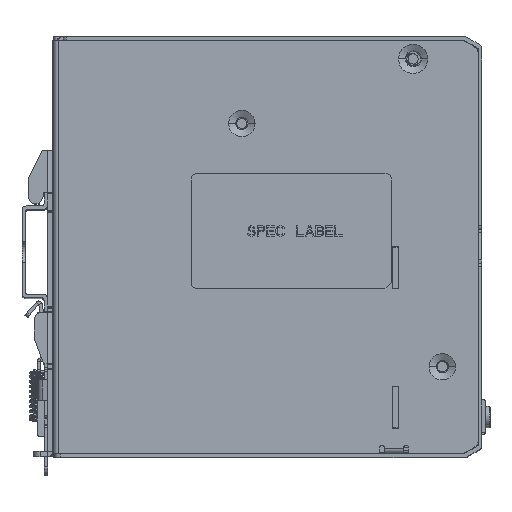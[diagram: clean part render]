
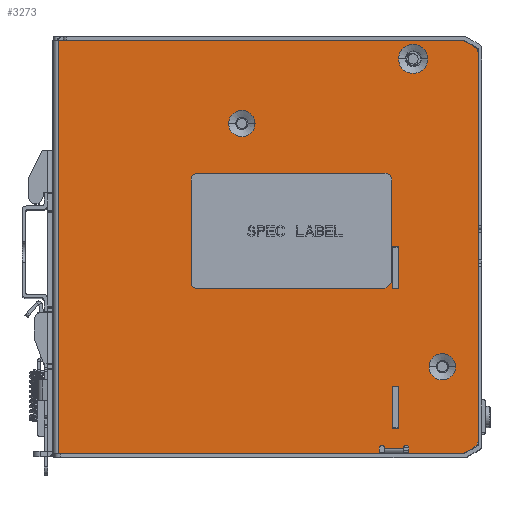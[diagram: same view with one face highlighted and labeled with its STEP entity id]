
A CAD part, top view. The second image highlights one B-rep face of the part: STEP entity #3273.
In plain terms, the highlighted planar face has unit normal (0, 0, 1).
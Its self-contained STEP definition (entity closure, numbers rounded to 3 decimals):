
#2=CARTESIAN_POINT('',(54.05,35.9,20.));
#3=DIRECTION('',(0.,0.,-1.));
#4=DIRECTION('',(-1.,0.,0.));
#5=AXIS2_PLACEMENT_3D('',#2,#3,#4);
#7=CARTESIAN_POINT('',(54.05,35.9,20.));
#8=DIRECTION('',(0.,0.,-1.));
#9=DIRECTION('',(1.,0.,0.));
#10=AXIS2_PLACEMENT_3D('',#7,#8,#9);
#12=CARTESIAN_POINT('',(104.4,54.9,20.));
#13=DIRECTION('',(0.,0.,-1.));
#14=DIRECTION('',(-1.,0.,0.));
#15=AXIS2_PLACEMENT_3D('',#12,#13,#14);
#17=CARTESIAN_POINT('',(104.4,54.9,20.));
#18=DIRECTION('',(0.,0.,-1.));
#19=DIRECTION('',(1.,0.,0.));
#20=AXIS2_PLACEMENT_3D('',#17,#18,#19);
#22=CARTESIAN_POINT('',(118.282,-58.2,20.));
#23=DIRECTION('',(0.,0.,1.));
#24=DIRECTION('',(0.,-1.,0.));
#25=AXIS2_PLACEMENT_3D('',#22,#23,#24);
#27=DIRECTION('',(-1.,0.,0.));
#28=VECTOR('',#27,15.182);
#29=CARTESIAN_POINT('',(118.282,-61.2,20.));
#30=LINE('',#29,#28);
#31=DIRECTION('',(0.,1.,0.));
#32=VECTOR('',#31,1.75);
#33=CARTESIAN_POINT('',(103.1,-61.2,20.));
#34=LINE('',#33,#32);
#35=CARTESIAN_POINT('',(102.35,-59.45,20.));
#36=DIRECTION('',(0.,0.,1.));
#37=DIRECTION('',(1.,0.,0.));
#38=AXIS2_PLACEMENT_3D('',#35,#36,#37);
#40=DIRECTION('',(0.,1.,0.));
#41=VECTOR('',#40,0.25);
#42=CARTESIAN_POINT('',(101.6,-59.7,20.));
#43=LINE('',#42,#41);
#44=DIRECTION('',(1.,0.,0.));
#45=VECTOR('',#44,5.6);
#46=CARTESIAN_POINT('',(96.,-59.7,20.));
#47=LINE('',#46,#45);
#48=DIRECTION('',(0.,1.,0.));
#49=VECTOR('',#48,0.25);
#50=CARTESIAN_POINT('',(96.,-59.7,20.));
#51=LINE('',#50,#49);
#52=CARTESIAN_POINT('',(95.25,-59.45,20.));
#53=DIRECTION('',(0.,0.,1.));
#54=DIRECTION('',(1.,0.,0.));
#55=AXIS2_PLACEMENT_3D('',#52,#53,#54);
#57=DIRECTION('',(0.,1.,0.));
#58=VECTOR('',#57,1.75);
#59=CARTESIAN_POINT('',(94.5,-61.2,20.));
#60=LINE('',#59,#58);
#61=DIRECTION('',(-1.,0.,0.));
#62=VECTOR('',#61,94.5);
#63=CARTESIAN_POINT('',(94.5,-61.2,20.));
#64=LINE('',#63,#62);
#65=DIRECTION('',(0.,1.,0.));
#66=VECTOR('',#65,121.6);
#67=CARTESIAN_POINT('',(0.,-61.2,20.));
#68=LINE('',#67,#66);
#69=DIRECTION('',(1.,0.,0.));
#70=VECTOR('',#69,118.282);
#71=CARTESIAN_POINT('',(0.,60.4,20.));
#72=LINE('',#71,#70);
#73=CARTESIAN_POINT('',(118.282,57.4,20.));
#74=DIRECTION('',(0.,0.,1.));
#75=DIRECTION('',(0.508,0.862,0.));
#76=AXIS2_PLACEMENT_3D('',#73,#74,#75);
#78=DIRECTION('',(-0.862,0.508,0.));
#79=VECTOR('',#78,2.69);
#80=CARTESIAN_POINT('',(122.123,58.62,20.));
#81=LINE('',#80,#79);
#82=CARTESIAN_POINT('',(120.6,56.035,20.));
#83=DIRECTION('',(0.,0.,1.));
#84=DIRECTION('',(1.,0.,0.));
#85=AXIS2_PLACEMENT_3D('',#82,#83,#84);
#87=DIRECTION('',(0.,-1.,0.));
#88=VECTOR('',#87,112.869);
#89=CARTESIAN_POINT('',(123.6,56.035,20.));
#90=LINE('',#89,#88);
#91=CARTESIAN_POINT('',(120.6,-56.835,20.));
#92=DIRECTION('',(0.,0.,1.));
#93=DIRECTION('',(0.508,-0.862,0.));
#94=AXIS2_PLACEMENT_3D('',#91,#92,#93);
#96=DIRECTION('',(0.862,0.508,0.));
#97=VECTOR('',#96,2.69);
#98=CARTESIAN_POINT('',(119.805,-60.785,20.));
#99=LINE('',#98,#97);
#100=DIRECTION('',(0.,-1.,0.));
#101=VECTOR('',#100,12.4);
#102=CARTESIAN_POINT('',(98.2,-41.3,20.));
#103=LINE('',#102,#101);
#104=DIRECTION('',(1.,0.,0.));
#105=VECTOR('',#104,2.);
#106=CARTESIAN_POINT('',(98.2,-53.7,20.));
#107=LINE('',#106,#105);
#108=DIRECTION('',(0.,1.,0.));
#109=VECTOR('',#108,12.4);
#110=CARTESIAN_POINT('',(100.2,-53.7,20.));
#111=LINE('',#110,#109);
#112=DIRECTION('',(-1.,0.,0.));
#113=VECTOR('',#112,2.);
#114=CARTESIAN_POINT('',(100.2,-41.3,20.));
#115=LINE('',#114,#113);
#116=DIRECTION('',(0.,-1.,0.));
#117=VECTOR('',#116,12.4);
#118=CARTESIAN_POINT('',(98.2,-0.3,20.));
#119=LINE('',#118,#117);
#120=DIRECTION('',(1.,0.,0.));
#121=VECTOR('',#120,2.);
#122=CARTESIAN_POINT('',(98.2,-12.7,20.));
#123=LINE('',#122,#121);
#124=DIRECTION('',(0.,1.,0.));
#125=VECTOR('',#124,12.4);
#126=CARTESIAN_POINT('',(100.2,-12.7,20.));
#127=LINE('',#126,#125);
#128=DIRECTION('',(-1.,0.,0.));
#129=VECTOR('',#128,2.);
#130=CARTESIAN_POINT('',(100.2,-0.3,20.));
#131=LINE('',#130,#129);
#132=CARTESIAN_POINT('',(113.,-35.6,20.));
#133=DIRECTION('',(0.,0.,-1.));
#134=DIRECTION('',(1.,0.,0.));
#135=AXIS2_PLACEMENT_3D('',#132,#133,#134);
#137=CARTESIAN_POINT('',(113.,-35.6,20.));
#138=DIRECTION('',(0.,0.,-1.));
#139=DIRECTION('',(-1.,0.,0.));
#140=AXIS2_PLACEMENT_3D('',#137,#138,#139);
#2456=CARTESIAN_POINT('',(0.,-61.2,20.));
#2458=VERTEX_POINT('',#2456);
#2500=CARTESIAN_POINT('',(103.1,-59.45,20.));
#2502=VERTEX_POINT('',#2500);
#2505=CARTESIAN_POINT('',(101.6,-59.45,20.));
#2507=VERTEX_POINT('',#2505);
#2509=CARTESIAN_POINT('',(94.5,-59.45,20.));
#2511=VERTEX_POINT('',#2509);
#2512=CARTESIAN_POINT('',(96.,-59.45,20.));
#2514=VERTEX_POINT('',#2512);
#2520=CARTESIAN_POINT('',(94.5,-61.2,20.));
#2521=VERTEX_POINT('',#2520);
#2522=CARTESIAN_POINT('',(103.1,-61.2,20.));
#2523=VERTEX_POINT('',#2522);
#2852=CARTESIAN_POINT('',(101.6,-59.7,20.));
#2854=VERTEX_POINT('',#2852);
#2858=CARTESIAN_POINT('',(96.,-59.7,20.));
#2859=VERTEX_POINT('',#2858);
#2888=CARTESIAN_POINT('',(50.172,35.9,20.));
#2889=CARTESIAN_POINT('',(57.928,35.9,20.));
#2890=VERTEX_POINT('',#2888);
#2891=VERTEX_POINT('',#2889);
#2952=CARTESIAN_POINT('',(100.122,54.9,20.));
#2953=CARTESIAN_POINT('',(108.678,54.9,20.));
#2954=VERTEX_POINT('',#2952);
#2955=VERTEX_POINT('',#2953);
#3000=CARTESIAN_POINT('',(118.282,-61.2,20.));
#3001=CARTESIAN_POINT('',(119.805,-60.785,20.));
#3002=VERTEX_POINT('',#3000);
#3003=VERTEX_POINT('',#3001);
#3012=CARTESIAN_POINT('',(122.123,-59.42,20.));
#3013=VERTEX_POINT('',#3012);
#3014=CARTESIAN_POINT('',(123.6,-56.835,20.));
#3015=VERTEX_POINT('',#3014);
#3080=CARTESIAN_POINT('',(0.,60.4,20.));
#3081=VERTEX_POINT('',#3080);
#3104=CARTESIAN_POINT('',(119.805,59.985,20.));
#3105=VERTEX_POINT('',#3104);
#3106=CARTESIAN_POINT('',(118.282,60.4,20.));
#3107=VERTEX_POINT('',#3106);
#3108=CARTESIAN_POINT('',(123.6,56.035,20.));
#3109=CARTESIAN_POINT('',(122.123,58.62,20.));
#3110=VERTEX_POINT('',#3108);
#3111=VERTEX_POINT('',#3109);
#3132=CARTESIAN_POINT('',(98.2,-41.3,20.));
#3133=CARTESIAN_POINT('',(98.2,-53.7,20.));
#3134=VERTEX_POINT('',#3132);
#3135=VERTEX_POINT('',#3133);
#3136=CARTESIAN_POINT('',(100.2,-53.7,20.));
#3137=VERTEX_POINT('',#3136);
#3138=CARTESIAN_POINT('',(100.2,-41.3,20.));
#3139=VERTEX_POINT('',#3138);
#3140=CARTESIAN_POINT('',(98.2,-0.3,20.));
#3141=CARTESIAN_POINT('',(98.2,-12.7,20.));
#3142=VERTEX_POINT('',#3140);
#3143=VERTEX_POINT('',#3141);
#3144=CARTESIAN_POINT('',(100.2,-12.7,20.));
#3145=VERTEX_POINT('',#3144);
#3146=CARTESIAN_POINT('',(100.2,-0.3,20.));
#3147=VERTEX_POINT('',#3146);
#3184=CARTESIAN_POINT('',(116.878,-35.6,20.));
#3185=CARTESIAN_POINT('',(109.122,-35.6,20.));
#3186=VERTEX_POINT('',#3184);
#3187=VERTEX_POINT('',#3185);
#3192=CARTESIAN_POINT('',(-1.5,-61.2,20.));
#3193=DIRECTION('',(0.,0.,1.));
#3194=DIRECTION('',(0.,-1.,0.));
#3195=AXIS2_PLACEMENT_3D('',#3192,#3193,#3194);
#3196=PLANE('',#3195);
#3198=ORIENTED_EDGE('',*,*,#3197,.F.);
#3200=ORIENTED_EDGE('',*,*,#3199,.T.);
#3202=ORIENTED_EDGE('',*,*,#3201,.T.);
#3204=ORIENTED_EDGE('',*,*,#3203,.T.);
#3206=ORIENTED_EDGE('',*,*,#3205,.F.);
#3208=ORIENTED_EDGE('',*,*,#3207,.F.);
#3210=ORIENTED_EDGE('',*,*,#3209,.T.);
#3212=ORIENTED_EDGE('',*,*,#3211,.T.);
#3214=ORIENTED_EDGE('',*,*,#3213,.F.);
#3216=ORIENTED_EDGE('',*,*,#3215,.T.);
#3218=ORIENTED_EDGE('',*,*,#3217,.T.);
#3220=ORIENTED_EDGE('',*,*,#3219,.T.);
#3222=ORIENTED_EDGE('',*,*,#3221,.F.);
#3224=ORIENTED_EDGE('',*,*,#3223,.F.);
#3226=ORIENTED_EDGE('',*,*,#3225,.F.);
#3228=ORIENTED_EDGE('',*,*,#3227,.T.);
#3230=ORIENTED_EDGE('',*,*,#3229,.F.);
#3232=ORIENTED_EDGE('',*,*,#3231,.F.);
#3233=EDGE_LOOP('',(#3198,#3200,#3202,#3204,#3206,#3208,#3210,#3212,#3214,#3216,
#3218,#3220,#3222,#3224,#3226,#3228,#3230,#3232));
#3234=FACE_OUTER_BOUND('',#3233,.F.);
#3236=ORIENTED_EDGE('',*,*,#3235,.F.);
#3238=ORIENTED_EDGE('',*,*,#3237,.F.);
#3239=EDGE_LOOP('',(#3236,#3238));
#3240=FACE_BOUND('',#3239,.F.);
#3242=ORIENTED_EDGE('',*,*,#3241,.F.);
#3244=ORIENTED_EDGE('',*,*,#3243,.F.);
#3245=EDGE_LOOP('',(#3242,#3244));
#3246=FACE_BOUND('',#3245,.F.);
#3248=ORIENTED_EDGE('',*,*,#3247,.T.);
#3250=ORIENTED_EDGE('',*,*,#3249,.T.);
#3252=ORIENTED_EDGE('',*,*,#3251,.T.);
#3254=ORIENTED_EDGE('',*,*,#3253,.T.);
#3255=EDGE_LOOP('',(#3248,#3250,#3252,#3254));
#3256=FACE_BOUND('',#3255,.F.);
#3258=ORIENTED_EDGE('',*,*,#3257,.T.);
#3260=ORIENTED_EDGE('',*,*,#3259,.T.);
#3262=ORIENTED_EDGE('',*,*,#3261,.T.);
#3264=ORIENTED_EDGE('',*,*,#3263,.T.);
#3265=EDGE_LOOP('',(#3258,#3260,#3262,#3264));
#3266=FACE_BOUND('',#3265,.F.);
#3268=ORIENTED_EDGE('',*,*,#3267,.F.);
#3270=ORIENTED_EDGE('',*,*,#3269,.F.);
#3271=EDGE_LOOP('',(#3268,#3270));
#3272=FACE_BOUND('',#3271,.F.);
#6=CIRCLE('',#5,3.878);
#11=CIRCLE('',#10,3.878);
#16=CIRCLE('',#15,4.278);
#21=CIRCLE('',#20,4.278);
#26=CIRCLE('',#25,3.);
#39=CIRCLE('',#38,0.75);
#56=CIRCLE('',#55,0.75);
#77=CIRCLE('',#76,3.);
#86=CIRCLE('',#85,3.);
#95=CIRCLE('',#94,3.);
#136=CIRCLE('',#135,3.878);
#141=CIRCLE('',#140,3.878);
#3197=EDGE_CURVE('',#3002,#3003,#26,.T.);
#3199=EDGE_CURVE('',#3002,#2523,#30,.T.);
#3201=EDGE_CURVE('',#2523,#2502,#34,.T.);
#3203=EDGE_CURVE('',#2502,#2507,#39,.T.);
#3205=EDGE_CURVE('',#2854,#2507,#43,.T.);
#3207=EDGE_CURVE('',#2859,#2854,#47,.T.);
#3209=EDGE_CURVE('',#2859,#2514,#51,.T.);
#3211=EDGE_CURVE('',#2514,#2511,#56,.T.);
#3213=EDGE_CURVE('',#2521,#2511,#60,.T.);
#3215=EDGE_CURVE('',#2521,#2458,#64,.T.);
#3217=EDGE_CURVE('',#2458,#3081,#68,.T.);
#3219=EDGE_CURVE('',#3081,#3107,#72,.T.);
#3221=EDGE_CURVE('',#3105,#3107,#77,.T.);
#3223=EDGE_CURVE('',#3111,#3105,#81,.T.);
#3225=EDGE_CURVE('',#3110,#3111,#86,.T.);
#3227=EDGE_CURVE('',#3110,#3015,#90,.T.);
#3229=EDGE_CURVE('',#3013,#3015,#95,.T.);
#3231=EDGE_CURVE('',#3003,#3013,#99,.T.);
#3235=EDGE_CURVE('',#2954,#2955,#16,.T.);
#3237=EDGE_CURVE('',#2955,#2954,#21,.T.);
#3241=EDGE_CURVE('',#2890,#2891,#6,.T.);
#3243=EDGE_CURVE('',#2891,#2890,#11,.T.);
#3247=EDGE_CURVE('',#3134,#3135,#103,.T.);
#3249=EDGE_CURVE('',#3135,#3137,#107,.T.);
#3251=EDGE_CURVE('',#3137,#3139,#111,.T.);
#3253=EDGE_CURVE('',#3139,#3134,#115,.T.);
#3257=EDGE_CURVE('',#3142,#3143,#119,.T.);
#3259=EDGE_CURVE('',#3143,#3145,#123,.T.);
#3261=EDGE_CURVE('',#3145,#3147,#127,.T.);
#3263=EDGE_CURVE('',#3147,#3142,#131,.T.);
#3267=EDGE_CURVE('',#3186,#3187,#136,.T.);
#3269=EDGE_CURVE('',#3187,#3186,#141,.T.);
#3273=ADVANCED_FACE('',(#3234,#3240,#3246,#3256,#3266,#3272),#3196,.T.);
